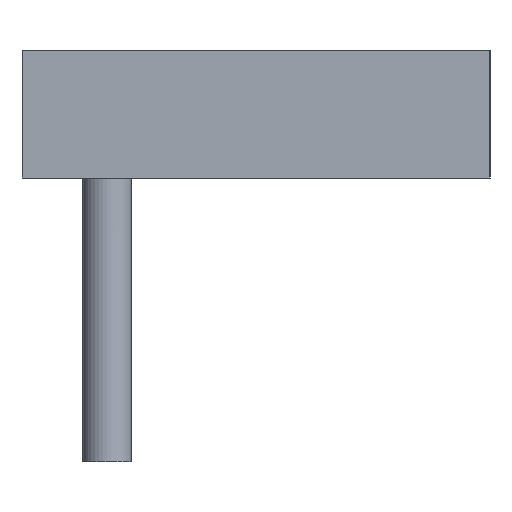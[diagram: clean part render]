
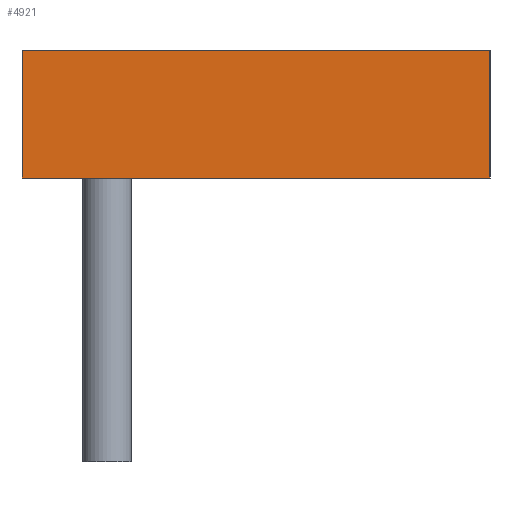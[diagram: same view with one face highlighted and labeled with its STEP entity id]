
A CAD part, left-side view. The second image highlights one B-rep face of the part: STEP entity #4921.
In plain terms, the highlighted planar face has unit normal (-1, 0, 0).
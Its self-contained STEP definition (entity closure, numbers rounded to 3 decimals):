
#50=PLANE('',#5257);
#380=FACE_OUTER_BOUND('',#673,.T.);
#673=EDGE_LOOP('',(#4359,#4360,#4361,#4362));
#1368=LINE('',#19889,#1657);
#1371=LINE('',#19895,#1660);
#1376=LINE('',#19904,#1665);
#1381=LINE('',#19912,#1670);
#1657=VECTOR('',#6166,10.);
#1660=VECTOR('',#6171,10.);
#1665=VECTOR('',#6180,10.);
#1670=VECTOR('',#6187,10.);
#2130=VERTEX_POINT('',#19886);
#2131=VERTEX_POINT('',#19888);
#2132=VERTEX_POINT('',#19892);
#2133=VERTEX_POINT('',#19894);
#2870=EDGE_CURVE('',#2131,#2130,#1368,.T.);
#2873=EDGE_CURVE('',#2133,#2132,#1371,.T.);
#2878=EDGE_CURVE('',#2132,#2131,#1376,.T.);
#2883=EDGE_CURVE('',#2130,#2133,#1381,.T.);
#4359=ORIENTED_EDGE('',*,*,#2873,.T.);
#4360=ORIENTED_EDGE('',*,*,#2878,.T.);
#4361=ORIENTED_EDGE('',*,*,#2870,.T.);
#4362=ORIENTED_EDGE('',*,*,#2883,.T.);
#4921=ADVANCED_FACE('',(#380),#50,.T.);
#5257=AXIS2_PLACEMENT_3D('',#19913,#6188,#6189);
#6166=DIRECTION('',(0.,0.,1.));
#6171=DIRECTION('',(0.,0.,-1.));
#6180=DIRECTION('',(0.,-1.,0.));
#6187=DIRECTION('',(0.,1.,0.));
#6188=DIRECTION('center_axis',(-1.,0.,0.));
#6189=DIRECTION('ref_axis',(0.,0.,1.));
#19886=CARTESIAN_POINT('',(-55.,-16.5,4.5));
#19888=CARTESIAN_POINT('',(-55.,-16.5,-4.5));
#19889=CARTESIAN_POINT('',(-55.,-16.5,-4.5));
#19892=CARTESIAN_POINT('',(-55.,16.5,-4.5));
#19894=CARTESIAN_POINT('',(-55.,16.5,4.5));
#19895=CARTESIAN_POINT('',(-55.,16.5,4.5));
#19904=CARTESIAN_POINT('',(-55.,16.5,-4.5));
#19912=CARTESIAN_POINT('',(-55.,-16.5,4.5));
#19913=CARTESIAN_POINT('Origin',(-55.,0.,0.));
